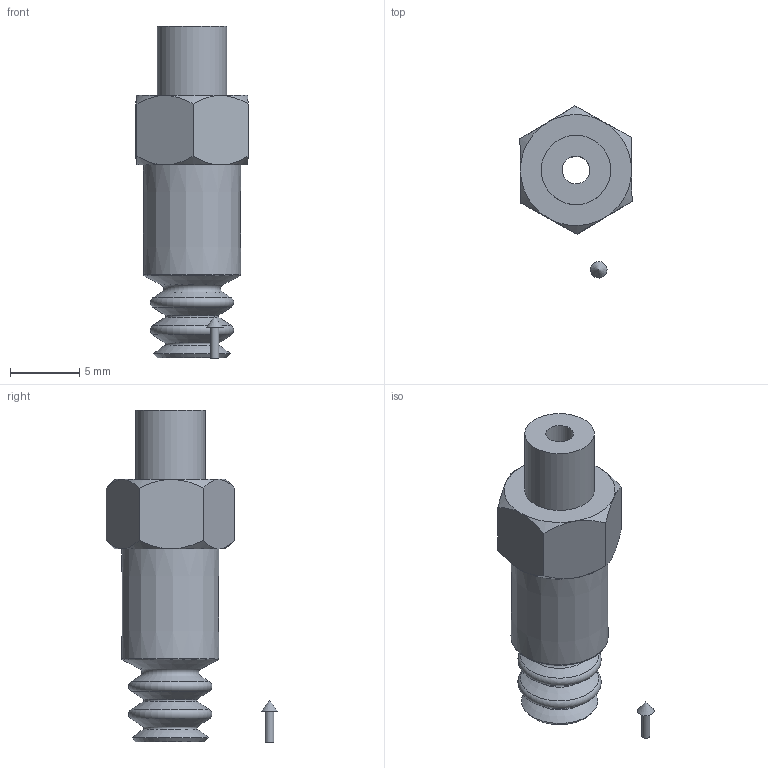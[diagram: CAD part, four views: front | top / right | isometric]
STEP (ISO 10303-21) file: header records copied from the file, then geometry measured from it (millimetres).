
FILE_DESCRIPTION(('STEP AP214'),'1');
FILE_NAME('KIT.08.33.D5.25.stp','2019-05-28T07:10:39',(' '),(' '),'Spatial InterOp 3D',' ',' ');
FILE_SCHEMA(('AUTOMOTIVE_DESIGN { 1 0 10303 214 1 1 1 1 }'));
Length unit declared in the file: millimetre
Products named in the file (5): KIT.08.33.D5.25; CA.08.09.025; CA.08.33.D5
Assembly tree (4 placements, depth 3):
  KIT.08.33.D5.25
    CA.08.09.025
    (unnamed)
      CA.08.33.D5
      CA.08.33.D5
Bounding box: 8.07 x 12.36 x 23.9 mm (x, y, z)
Volume: 702.3 mm3; surface area: 1055.8 mm2
Topology: 3 solids, 3 shells, 60 faces, 121 edges, 70 vertices
Faces by surface type: cone 26, plane 15, torus 11, cylinder 6, bspline 1, sphere 1
Full cylindrical faces by diameter (mm): 0.6 x1, 2 x1, 3.5 x1, 3.55 x1, 4.14 x1, 5 x1
Entity records: 2143 total; most frequent: CARTESIAN_POINT 480, DIRECTION 240, ORIENTED_EDGE 164, AXIS2_PLACEMENT_3D 117, EDGE_LOOP 100, EDGE_CURVE 82, FACE_OUTER_BOUND 79, VERTEX_POINT 65
